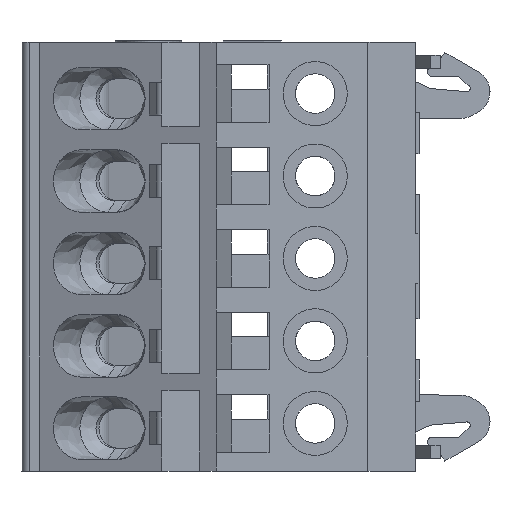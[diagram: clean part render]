
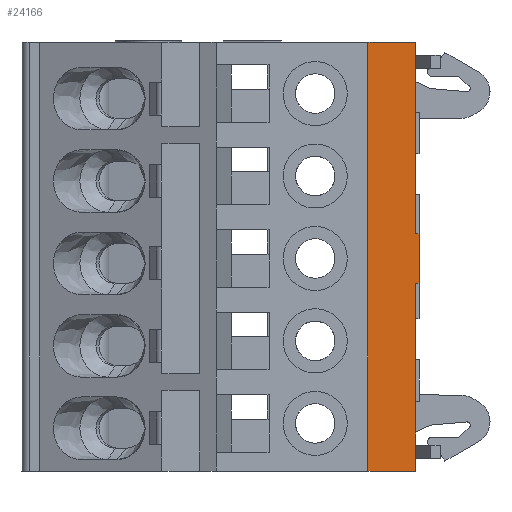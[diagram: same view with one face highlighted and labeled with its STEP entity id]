
A CAD part, left-side view. The second image highlights one B-rep face of the part: STEP entity #24166.
In plain terms, the highlighted planar face has unit normal (-1, 0, 0).
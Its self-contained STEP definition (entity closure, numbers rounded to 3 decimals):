
#10461=CARTESIAN_POINT(' ',(-15.5,2.9,0.));
#10462=VERTEX_POINT(' ',#10461);
#10476=CARTESIAN_POINT(' ',(-15.5,2.9,0.));
#10481=DIRECTION(' ',(0.,-1.,0.));
#10486=VECTOR(' ',#10481,1.);
#10491=LINE('',#10476,#10486);
#10496=CARTESIAN_POINT(' ',(-15.5,0.,0.));
#10497=VERTEX_POINT(' ',#10496);
#10501=EDGE_CURVE(' ',#10462,#10497,#10491,.T.);
#23811=CARTESIAN_POINT(' ',(-15.5,2.9,-26.));
#23812=VERTEX_POINT(' ',#23811);
#23826=CARTESIAN_POINT(' ',(-15.5,2.9,-26.));
#23831=DIRECTION(' ',(0.,0.,1.));
#23836=VECTOR(' ',#23831,1.);
#23841=LINE('',#23826,#23836);
#23846=EDGE_CURVE(' ',#23812,#10462,#23841,.T.);
#23916=CARTESIAN_POINT(' ',(-15.5,-0.2,-26.));
#23921=DIRECTION(' ',(-1.,0.,0.));
#23926=DIRECTION(' ',(0.,0.,1.));
#23931=AXIS2_PLACEMENT_3D(' ',#23916,#23921,#23926);
#23936=PLANE(' ',#23931);
#23941=ORIENTED_EDGE(' ',*,*,#10501,.F.);
#23946=ORIENTED_EDGE(' ',*,*,#23846,.F.);
#23951=CARTESIAN_POINT(' ',(-15.5,2.9,-26.));
#23956=DIRECTION(' ',(0.,-1.,0.));
#23961=VECTOR(' ',#23956,1.);
#23966=LINE('',#23951,#23961);
#23971=CARTESIAN_POINT(' ',(-15.5,0.,-26.));
#23972=VERTEX_POINT(' ',#23971);
#23976=EDGE_CURVE(' ',#23812,#23972,#23966,.T.);
#23981=ORIENTED_EDGE(' ',*,*,#23976,.T.);
#23986=CARTESIAN_POINT(' ',(-15.5,0.,-26.));
#23991=DIRECTION(' ',(0.,0.,1.));
#23996=VECTOR(' ',#23991,1.);
#24001=LINE('',#23986,#23996);
#24006=CARTESIAN_POINT(' ',(-15.5,0.,-14.6));
#24007=VERTEX_POINT(' ',#24006);
#24011=EDGE_CURVE(' ',#23972,#24007,#24001,.T.);
#24016=ORIENTED_EDGE(' ',*,*,#24011,.T.);
#24021=CARTESIAN_POINT(' ',(-15.5,-0.2,-14.6));
#24026=DIRECTION(' ',(0.,1.,0.));
#24031=VECTOR(' ',#24026,1.);
#24036=LINE('',#24021,#24031);
#24041=CARTESIAN_POINT(' ',(-15.5,-0.2,-14.6));
#24042=VERTEX_POINT(' ',#24041);
#24046=EDGE_CURVE(' ',#24042,#24007,#24036,.T.);
#24051=ORIENTED_EDGE(' ',*,*,#24046,.F.);
#24056=CARTESIAN_POINT(' ',(-15.5,-0.2,-11.6));
#24061=DIRECTION(' ',(0.,0.,-1.));
#24066=VECTOR(' ',#24061,1.);
#24071=LINE('',#24056,#24066);
#24076=CARTESIAN_POINT(' ',(-15.5,-0.2,-11.6));
#24077=VERTEX_POINT(' ',#24076);
#24081=EDGE_CURVE(' ',#24077,#24042,#24071,.T.);
#24086=ORIENTED_EDGE(' ',*,*,#24081,.F.);
#24091=CARTESIAN_POINT(' ',(-15.5,-0.2,-11.6));
#24096=DIRECTION(' ',(0.,1.,0.));
#24101=VECTOR(' ',#24096,1.);
#24106=LINE('',#24091,#24101);
#24111=CARTESIAN_POINT(' ',(-15.5,0.,-11.6));
#24112=VERTEX_POINT(' ',#24111);
#24116=EDGE_CURVE(' ',#24077,#24112,#24106,.T.);
#24121=ORIENTED_EDGE(' ',*,*,#24116,.T.);
#24126=CARTESIAN_POINT(' ',(-15.5,0.,-11.6));
#24131=DIRECTION(' ',(0.,0.,1.));
#24136=VECTOR(' ',#24131,1.);
#24141=LINE('',#24126,#24136);
#24146=EDGE_CURVE(' ',#24112,#10497,#24141,.T.);
#24151=ORIENTED_EDGE(' ',*,*,#24146,.T.);
#24156=EDGE_LOOP(' ',(#23941,#23946,#23981,#24016,#24051,#24086,#24121,#24151));
#24161=FACE_OUTER_BOUND(' ',#24156,.T.);
#24166=ADVANCED_FACE('',(#24161),#23936,.T.);
